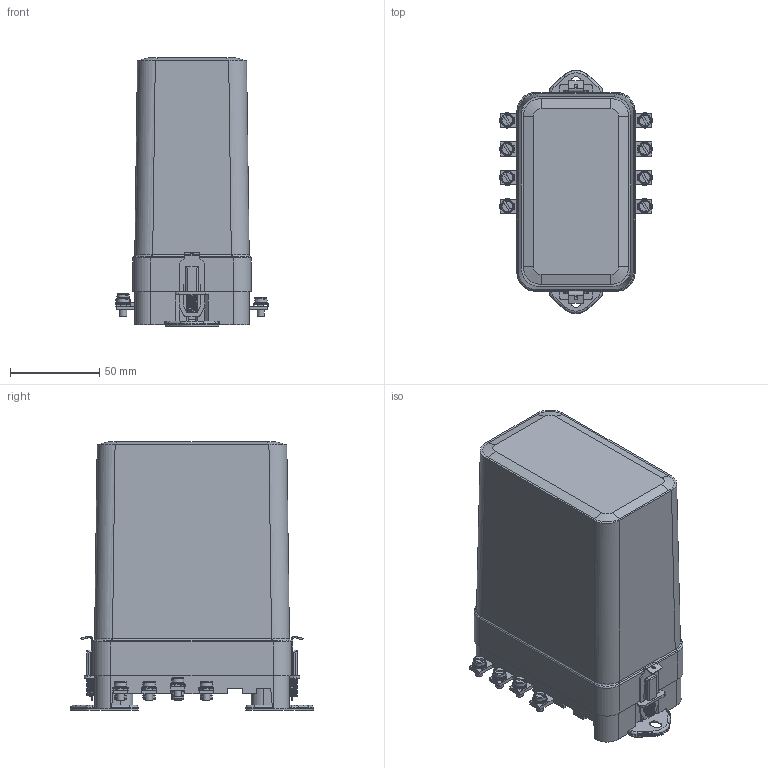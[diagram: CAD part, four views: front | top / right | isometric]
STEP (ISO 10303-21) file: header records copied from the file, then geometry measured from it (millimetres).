
FILE_DESCRIPTION(('STEP AP214'), '1');
FILE_NAME('ÐÒ40, ÐÍ50 ïåðåäíåå ïðèñîåäèíåíèå', '', ('UNSPECIFIED'), ('UNSPECIFIED'), 'ASCON STEP Converter 1.3', 'ASCON Math Kernel', '');
FILE_SCHEMA(('AUTOMOTIVE_DESIGN { 1 0 10303 214 3 1 1}'));
Length unit declared in the file: millimetre
Bounding box: 85.5 x 136 x 150.3 mm (x, y, z)
Volume: 168072.5 mm3; surface area: 136515.1 mm2
Topology: 4 solids, 10 shells, 1942 faces, 5338 edges, 3390 vertices
Faces by surface type: plane 1143, cylinder 526, torus 196, bspline 50, cone 25, sphere 2
Full cylindrical faces by diameter (mm): 2 x2, 3.242 x8, 3.5 x2, 4 x34, 4.2 x8, 4.3 x9, 5 x2, 5.3 x4, 5.5 x15, 6.9 x2, 8 x2, 9.3 x2
Entity records: 90783 total; most frequent: CARTESIAN_POINT 26348, ORIENTED_EDGE 10348, DIRECTION 9913, EDGE_CURVE 5180, VERTEX_POINT 3385, AXIS2_PLACEMENT_3D 3353, LINE 3207, VECTOR 3207
